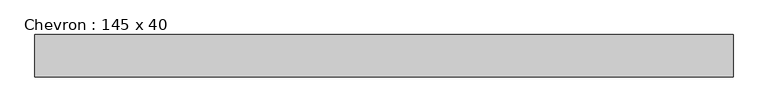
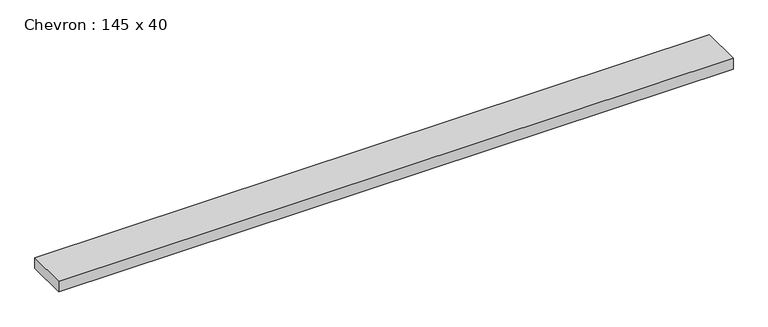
"""IFC4 building model written with IfcOpenShell, lengths in millimetres: beam geometry, Chevron : 145 x 40."""

from ifc_helpers import new_model, si_unit, frame, origin, place, context, project, spatial, polyline, outline, extrude, source, transform, mapped, element, save


def chevron_145_x_40_1126b362(model_context):
    return source(origin(), model_context, "Body", "SweptSolid", [
        extrude(outline(polyline([(1179.5, 72.5), (1179.5, -72.5), (-1211.5196813, -72.5), (-1211.5196813, 72.5), (1179.5, 72.5)])), frame((0.0, 0.0, -20.0), z_axis=(0.0, 0.0, 1.0), x_axis=(1.0, 0.0, 0.0)), (0.0, 0.0, 1.0), 40.0),
    ])


if __name__ == "__main__":
    model = new_model("IFC4")
    model_context = context("Model", 3, world=origin())
    ifc_project = project(units=[si_unit("LENGTHUNIT", "METRE", prefix="MILLI")], contexts=[model_context])
    site = spatial("IfcSite", under=ifc_project)
    building = spatial("IfcBuilding", under=site)
    placement = place(None, origin())
    chevron_145_x_40_shape = chevron_145_x_40_1126b362(model_context)
    element("IfcBeam", 1, ObjectType="Chevron : 145 x 40", at=placement, inside=building, context=model_context, shape_type="MappedRepresentation", body=[
        mapped(chevron_145_x_40_shape, transform((0.0, 0.0, 0.0), x_axis=(1.0, 0.0, 0.0), y_axis=(0.0, 1.0, 0.0), z_axis=(0.0, 0.0, 1.0))),
    ])
    save(model, "model.ifc")
